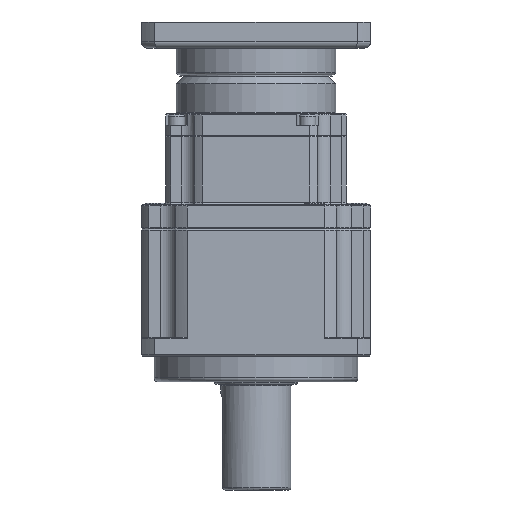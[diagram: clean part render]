
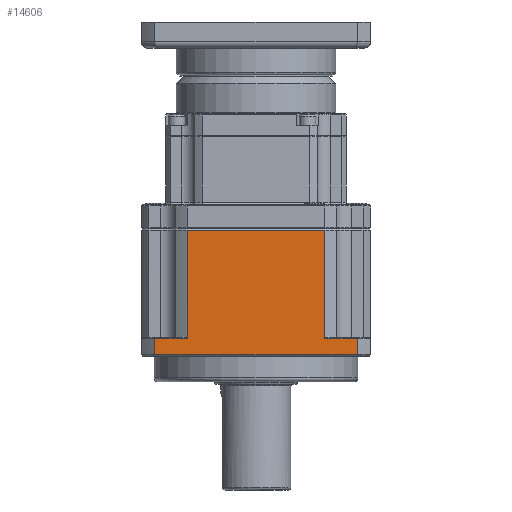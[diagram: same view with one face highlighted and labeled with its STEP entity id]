
A CAD part, left-side view. The second image highlights one B-rep face of the part: STEP entity #14606.
In plain terms, the highlighted planar face has unit normal (-1, 0, 0).
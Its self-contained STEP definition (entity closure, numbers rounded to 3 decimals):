
#12781=CARTESIAN_POINT('',(-90.,-54.083,34.0));
#12782=VERTEX_POINT('',#12781);
#12790=CARTESIAN_POINT('',(-90.,-79.373,34.0));
#12791=VERTEX_POINT('',#12790);
#12792=CARTESIAN_POINT('',(-90.,-54.083,34.0));
#12793=DIRECTION('',(0.0,-1.0,0.0));
#12794=VECTOR('',#12793,25.289);
#12795=LINE('',#12792,#12794);
#12796=EDGE_CURVE('',#12782,#12791,#12795,.T.);
#12900=CARTESIAN_POINT('',(-90.,79.373,34.0));
#12901=VERTEX_POINT('',#12900);
#12924=CARTESIAN_POINT('',(-90.,54.083,34.0));
#12925=VERTEX_POINT('',#12924);
#12935=CARTESIAN_POINT('',(-90.,79.373,34.0));
#12936=DIRECTION('',(0.0,-1.0,0.0));
#12937=VECTOR('',#12936,25.289);
#12938=LINE('',#12935,#12937);
#12939=EDGE_CURVE('',#12901,#12925,#12938,.T.);
#12959=CARTESIAN_POINT('',(-90.0,54.083,119.0));
#12960=VERTEX_POINT('',#12959);
#12968=CARTESIAN_POINT('',(-90.,-54.083,119.0));
#12969=VERTEX_POINT('',#12968);
#12970=CARTESIAN_POINT('',(-90.,54.083,119.0));
#12971=DIRECTION('',(0.0,-1.0,0.0));
#12972=VECTOR('',#12971,108.167);
#12973=LINE('',#12970,#12972);
#12974=EDGE_CURVE('',#12960,#12969,#12973,.T.);
#13742=CARTESIAN_POINT('',(-90.0,54.083,119.0));
#13743=DIRECTION('',(0.0,0.0,-1.0));
#13744=VECTOR('',#13743,85.0);
#13745=LINE('',#13742,#13744);
#13746=EDGE_CURVE('',#12960,#12925,#13745,.T.);
#14371=CARTESIAN_POINT('',(-90.,-79.373,21.));
#14372=VERTEX_POINT('',#14371);
#14373=CARTESIAN_POINT('',(-90.,79.373,21.0));
#14374=VERTEX_POINT('',#14373);
#14375=CARTESIAN_POINT('',(-90.,-79.373,21.));
#14376=DIRECTION('',(0.0,1.0,0.0));
#14377=VECTOR('',#14376,158.745);
#14378=LINE('',#14375,#14377);
#14379=EDGE_CURVE('',#14372,#14374,#14378,.T.);
#14572=CARTESIAN_POINT('',(-90.,79.373,21.));
#14573=DIRECTION('',(0.0,0.0,1.0));
#14574=VECTOR('',#14573,13.);
#14575=LINE('',#14572,#14574);
#14576=EDGE_CURVE('',#14374,#12901,#14575,.T.);
#14581=CARTESIAN_POINT('',(-90.,-79.373,20.0));
#14582=DIRECTION('',(-1.0,0.0,0.0));
#14583=DIRECTION('',(0.0,0.0,1.0));
#14584=AXIS2_PLACEMENT_3D('',#14581,#14582,#14583);
#14585=PLANE('',#14584);
#14586=CARTESIAN_POINT('',(-90.,-54.083,34.0));
#14587=DIRECTION('',(0.0,0.0,1.0));
#14588=VECTOR('',#14587,85.0);
#14589=LINE('',#14586,#14588);
#14590=EDGE_CURVE('',#12782,#12969,#14589,.T.);
#14591=ORIENTED_EDGE('',*,*,#14590,.T.);
#14592=ORIENTED_EDGE('',*,*,#12974,.F.);
#14593=ORIENTED_EDGE('',*,*,#13746,.T.);
#14594=ORIENTED_EDGE('',*,*,#12939,.F.);
#14595=ORIENTED_EDGE('',*,*,#14576,.F.);
#14596=ORIENTED_EDGE('',*,*,#14379,.F.);
#14597=CARTESIAN_POINT('',(-90.,-79.373,21.0));
#14598=DIRECTION('',(0.0,0.0,1.0));
#14599=VECTOR('',#14598,13.0);
#14600=LINE('',#14597,#14599);
#14601=EDGE_CURVE('',#14372,#12791,#14600,.T.);
#14602=ORIENTED_EDGE('',*,*,#14601,.T.);
#14603=ORIENTED_EDGE('',*,*,#12796,.F.);
#14604=EDGE_LOOP('',(#14591,#14592,#14593,#14594,#14595,#14596,#14602,#14603));
#14605=FACE_OUTER_BOUND('',#14604,.T.);
#14606=ADVANCED_FACE('',(#14605),#14585,.T.);
